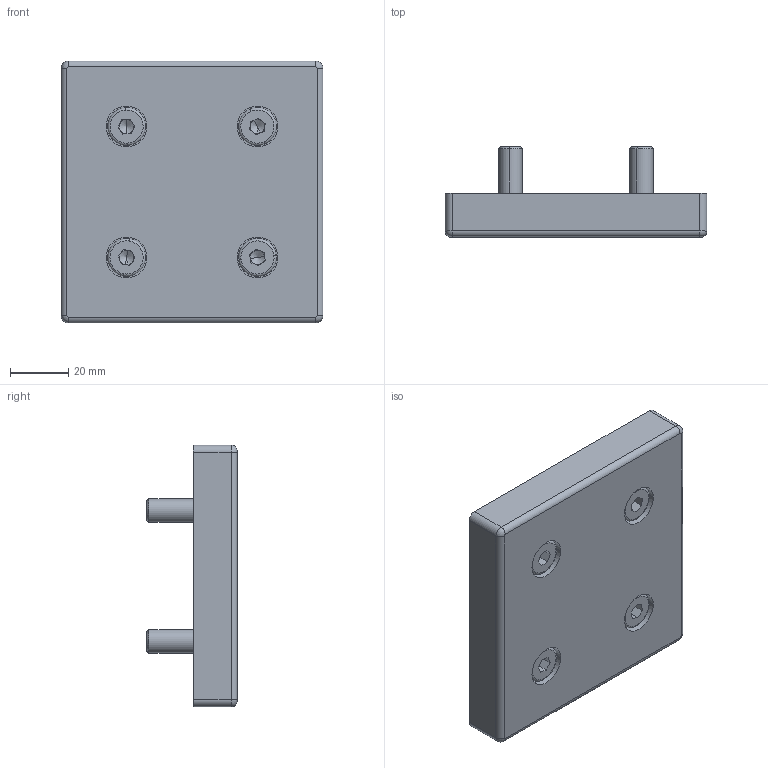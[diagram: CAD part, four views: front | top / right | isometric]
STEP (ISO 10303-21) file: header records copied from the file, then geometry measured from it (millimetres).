
FILE_DESCRIPTION (( 'STEP AP214' ), '1' );
FILE_NAME ('1.8136 KPS yksikön laakerilevy 90X90.STEP', '2026-03-30T06:50:15', ( '' ), ( '' ), 'SwSTEP 2.0', 'SolidWorks 2025', '' );
FILE_SCHEMA (( 'AUTOMOTIVE_DESIGN' ));
Length unit declared in the file: millimetre
Products named in the file (1): 1.8136 KPS yksikön laakerilevy 90X90
Bounding box: 90 x 31 x 90 mm (x, y, z)
Volume: 122092.9 mm3; surface area: 29797.4 mm2
Topology: 6 solids, 6 shells, 175 faces, 378 edges, 224 vertices
Faces by surface type: plane 77, cylinder 54, torus 28, cone 16
Entity records: 6705 total; most frequent: DIRECTION 914, CARTESIAN_POINT 770, ORIENTED_EDGE 740, EDGE_CURVE 370, AXIS2_PLACEMENT_3D 368, VERTEX_POINT 224, EDGE_LOOP 202, CIRCLE 192
